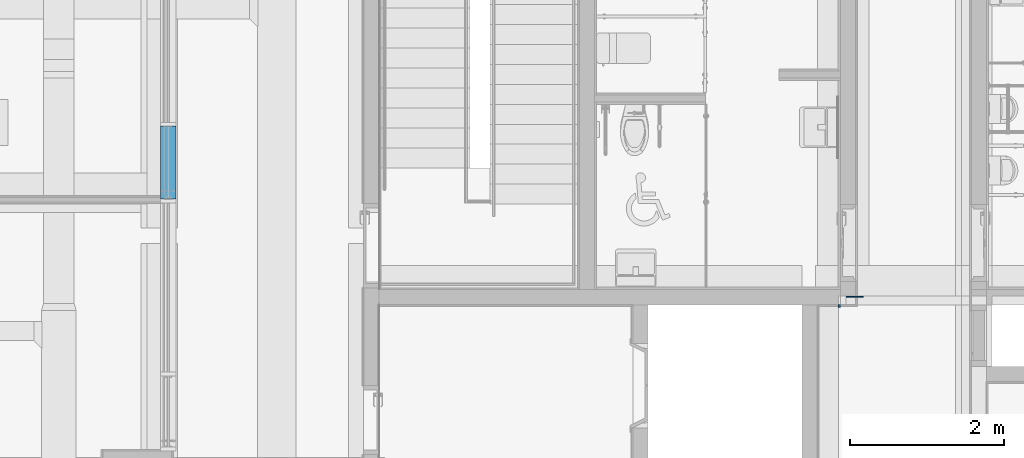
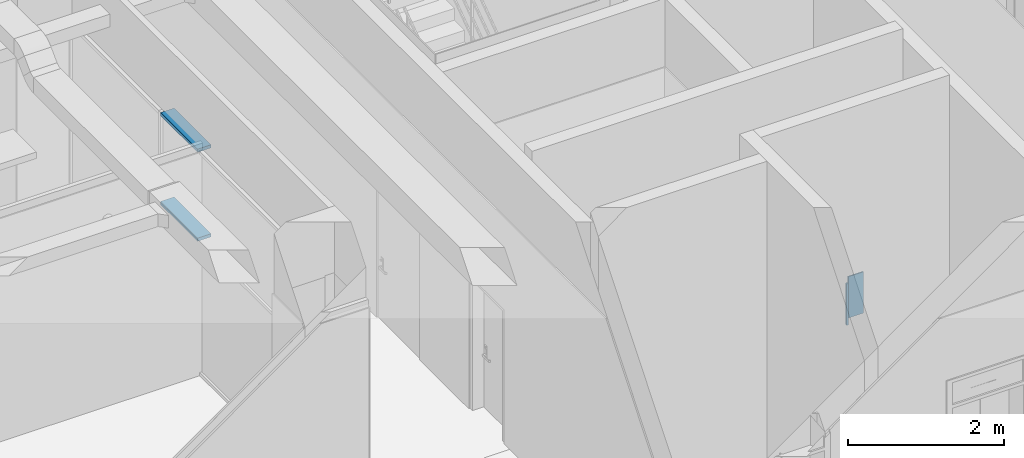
# One storey, part 18 of 100: 2 beams, 2 members, 1 element without a shape of its own.
"""IFC2X3 building model written with IfcOpenShell, lengths in millimetres."""

from ifc_helpers import new_model, entity, si_unit, converted_unit, derived_unit, direction, frame, frame_2d, origin, origin_2d_with_axis, place, context, subcontext, project, spatial, rectangle, extrude, clip, halfspace, source, transform, mapped, material, type_object, type_shapes, element, aggregate, save


model = new_model("IFC2X3")

# Units and contexts
model_context = context("Model", 3, precision=0.01, world=origin(), true_north=direction((6.123031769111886e-17, 1.0)))
body_context = subcontext(model_context, "Body", "Model", "MODEL_VIEW")
ifc_project = project(units=[si_unit("LENGTHUNIT", "METRE", prefix="MILLI"), si_unit("AREAUNIT", "SQUARE_METRE"), si_unit("VOLUMEUNIT", "CUBIC_METRE"), converted_unit("PLANEANGLEUNIT", "DEGREE", entity("IfcRatioMeasure", 0.017453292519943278), si_unit("PLANEANGLEUNIT", "RADIAN"), dimensions=[0, 0, 0, 0, 0, 0, 0]), si_unit("MASSUNIT", "GRAM", prefix="KILO"), derived_unit("MASSDENSITYUNIT", [(si_unit("MASSUNIT", "GRAM", prefix="KILO"), 1), (si_unit("LENGTHUNIT", "METRE"), -3)]), derived_unit("MOMENTOFINERTIAUNIT", [(si_unit("LENGTHUNIT", "METRE"), 4)]), si_unit("TIMEUNIT", "SECOND"), si_unit("FREQUENCYUNIT", "HERTZ"), si_unit("THERMODYNAMICTEMPERATUREUNIT", "DEGREE_CELSIUS"), derived_unit("THERMALTRANSMITTANCEUNIT", [(si_unit("MASSUNIT", "GRAM", prefix="KILO"), 1), (si_unit("THERMODYNAMICTEMPERATUREUNIT", "KELVIN"), -1), (si_unit("TIMEUNIT", "SECOND"), -3)]), derived_unit("VOLUMETRICFLOWRATEUNIT", [(si_unit("LENGTHUNIT", "METRE"), 3), (si_unit("TIMEUNIT", "SECOND"), -1)]), derived_unit("MASSFLOWRATEUNIT", [(si_unit("MASSUNIT", "GRAM", prefix="KILO"), 1), (si_unit("TIMEUNIT", "SECOND"), -1)]), derived_unit("ROTATIONALFREQUENCYUNIT", [(si_unit("TIMEUNIT", "SECOND"), -1)]), si_unit("ELECTRICCURRENTUNIT", "AMPERE"), si_unit("ELECTRICVOLTAGEUNIT", "VOLT"), si_unit("POWERUNIT", "WATT"), si_unit("FORCEUNIT", "NEWTON", prefix="KILO"), si_unit("ILLUMINANCEUNIT", "LUX"), si_unit("LUMINOUSFLUXUNIT", "LUMEN"), si_unit("LUMINOUSINTENSITYUNIT", "CANDELA"), derived_unit("USERDEFINED", [(si_unit("MASSUNIT", "GRAM", prefix="KILO"), -1), (si_unit("LENGTHUNIT", "METRE"), -2), (si_unit("TIMEUNIT", "SECOND"), 3), (si_unit("LUMINOUSFLUXUNIT", "LUMEN"), 1)]), derived_unit("SOUNDPOWERUNIT", [(si_unit("MASSUNIT", "GRAM", prefix="KILO"), 1), (si_unit("LENGTHUNIT", "METRE"), 2), (si_unit("TIMEUNIT", "SECOND"), -3)]), derived_unit("SOUNDPRESSUREUNIT", [(si_unit("MASSUNIT", "GRAM", prefix="KILO"), 1), (si_unit("LENGTHUNIT", "METRE"), -1), (si_unit("TIMEUNIT", "SECOND"), -2)]), derived_unit("LINEARVELOCITYUNIT", [(si_unit("LENGTHUNIT", "METRE"), 1), (si_unit("TIMEUNIT", "SECOND"), -1)]), si_unit("PRESSUREUNIT", "PASCAL"), derived_unit("USERDEFINED", [(si_unit("LENGTHUNIT", "METRE"), -2), (si_unit("MASSUNIT", "GRAM", prefix="KILO"), 1), (si_unit("TIMEUNIT", "SECOND"), -2)]), derived_unit("LINEARFORCEUNIT", [(si_unit("MASSUNIT", "GRAM", prefix="KILO"), 1), (si_unit("LENGTHUNIT", "METRE"), 1), (si_unit("TIMEUNIT", "SECOND"), -2), (si_unit("LENGTHUNIT", "METRE"), -1)]), derived_unit("PLANARFORCEUNIT", [(si_unit("MASSUNIT", "GRAM", prefix="KILO"), 1), (si_unit("LENGTHUNIT", "METRE"), 1), (si_unit("TIMEUNIT", "SECOND"), -2), (si_unit("LENGTHUNIT", "METRE"), -2)])], contexts=[model_context])

# Site, building, storey
site_placement = place(None, frame((-14167.972527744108, -657.2125860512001, 0.0)))
site = spatial("IfcSite", under=ifc_project, at=site_placement, Name="Default", CompositionType="ELEMENT")
building_placement = place(site_placement, origin())
building = spatial("IfcBuilding", under=site, at=building_placement, Name="Sample Building", CompositionType="ELEMENT")
storey_placement = place(building_placement, origin())
storey = spatial("IfcBuildingStorey", under=building, at=storey_placement, Name="지상 1층", CompositionType="ELEMENT", Elevation=0.0)

# Curtain wall, members
curtain_wall_type = type_object("IfcCurtainWallType", Name="커튼월:CW112-스테인리스 스틸 커튼월", PredefinedType="NOTDEFINED")
curtain_wall_placement = place(storey_placement, origin())
curtain_wall = element("IfcCurtainWall", 1, at=curtain_wall_placement, inside=storey, type_object=curtain_wall_type, Name="커튼월:CW112-스테인리스 스틸 커튼월", ObjectType="커튼월:CW112-스테인리스 스틸 커튼월")
ifc_material_1 = material(Name="<Unnamed>")
member_type_1 = type_object("IfcMemberType", Name="직사각형 멀리언:CW200-직사각형 멀리언 50x200mm", PredefinedType="MULLION", material=ifc_material_1)
shared_shape_1 = source(origin(), body_context, "Body", "SweptSolid", [
    extrude(rectangle(XDim=200.0, YDim=50.0, at=origin_2d_with_axis()), frame((-25.0, 0.0, -950.0), z_axis=(0.0, 0.0, 1.0), x_axis=(0.0, -1.0, 0.0)), (0.0, 0.0, 1.0), 949.9999999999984),
])
type_shapes(member_type_1, [shared_shape_1])
member_1_placement = place(curtain_wall_placement, frame((27522.955141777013, 24582.17762439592, 3600.0), z_axis=(0.0, 1.0, 0.0), x_axis=(0.0, 0.0, 1.0)))
member_1 = element("IfcMember", 2, at=member_1_placement, type_object=member_type_1, material=ifc_material_1, Name="직사각형 멀리언:CW200-직사각형 멀리언 50x200mm", ObjectType="직사각형 멀리언:CW200-직사각형 멀리언 50x200mm", context=body_context, shape_type="MappedRepresentation", body=[
    mapped(shared_shape_1, transform((0.0, 0.0, 0.0), scale=1.0)),
])
member_type_2 = type_object("IfcMemberType", Name="직사각형 멀리언:CW200-직사각형 멀리언 50x200mm", PredefinedType="MULLION", material=ifc_material_1)
shared_shape_2 = source(origin(), body_context, "Body", "SweptSolid", [
    extrude(rectangle(XDim=200.0, YDim=50.0, at=origin_2d_with_axis()), frame((0.0, 0.0, -950.0), z_axis=(0.0, 0.0, 1.0), x_axis=(0.0, -1.0, 0.0)), (0.0, 0.0, 1.0), 949.9999999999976),
])
type_shapes(member_type_2, [shared_shape_2])
member_2_placement = place(curtain_wall_placement, frame((27522.955141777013, 24582.17762439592, 2180.0), z_axis=(0.0, 1.0, 0.0), x_axis=(0.0, 0.0, 1.0)))
member_2 = element("IfcMember", 3, at=member_2_placement, type_object=member_type_2, material=ifc_material_1, Name="직사각형 멀리언:CW200-직사각형 멀리언 50x200mm", ObjectType="직사각형 멀리언:CW200-직사각형 멀리언 50x200mm", context=body_context, shape_type="MappedRepresentation", body=[
    mapped(shared_shape_2, transform((0.0, 0.0, 0.0), scale=1.0)),
])
aggregate(curtain_wall, [member_1, member_2])

# Beams
ifc_material_2 = material(Name="KBIMS-콘크리트")
beam_type_1 = type_object("IfcBeamType", Name="BM111-철근콘크리트구조 보:BM110-철근 콘크리트구조 보_400 x 850_B1-1WG1", PredefinedType="BEAM", material=ifc_material_2)
beam_1_placement = place(storey_placement, frame((36067.9551417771, 22223.93039082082, 0.0), z_axis=(0.0, 0.0, 1.0), x_axis=(0.0, 1.0, 0.0)))
element("IfcBeam", 4, at=beam_1_placement, inside=storey, type_object=beam_type_1, material=ifc_material_2, Name="BM111-철근콘크리트구조 보:BM110-철근 콘크리트구조 보_400 x 850_B1-1WG1", ObjectType="BM111-철근콘크리트구조 보:BM110-철근 콘크리트구조 보_400 x 850_B1-1WG1", context=body_context, shape_type="SweptSolid", body=[
    clip(extrude(rectangle(XDim=652.4546495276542, YDim=24.709242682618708, at=frame_2d((2.1653789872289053e-12, 0.0), x_axis=(0.0, 1.0))), frame((0.0, -187.64537865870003, -1073.7726752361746), z_axis=(1.0, 0.0, 0.0), x_axis=(0.0, 1.0, 0.0)), (0.0, 0.0, 1.0), 33.282229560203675), halfspace(frame((-4966.7180794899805, -900.0130028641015, -201.20636172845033), z_axis=(0.10934047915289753, 0.0, 0.994004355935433), x_axis=(0.994004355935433, 0.0, -0.10934047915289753)), False)),
])
beam_type_2 = type_object("IfcBeamType", Name="BM111-철근콘크리트구조 보:BM110-철근 콘크리트구조 보_800 x 800_1B7", PredefinedType="NOTDEFINED")
beam_2_placement = place(storey_placement, frame((36167.94644879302, 28257.21261703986, 0.0), z_axis=(0.0, 0.0, 1.0), x_axis=(0.0, -1.0, 0.0)))
element("IfcBeam", 5, at=beam_2_placement, inside=storey, type_object=beam_type_2, material=ifc_material_2, Name="BM111-철근콘크리트구조 보:BM110-철근 콘크리트구조 보_800 x 800_1B7", ObjectType="BM111-철근콘크리트구조 보:BM110-철근 콘크리트구조 보_800 x 800_1B7", context=body_context, shape_type="SweptSolid", body=[
    extrude(rectangle(XDim=650.0000000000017, YDim=224.69185671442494, at=origin_2d_with_axis()), frame((5886.135498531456, 287.65407164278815, -1075.0), z_axis=(1.0, 0.0, 0.0), x_axis=(0.0, 0.0, -1.0)), (0.0, 0.0, 1.0), 13.864807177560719),
])

save(model, "model.ifc")
